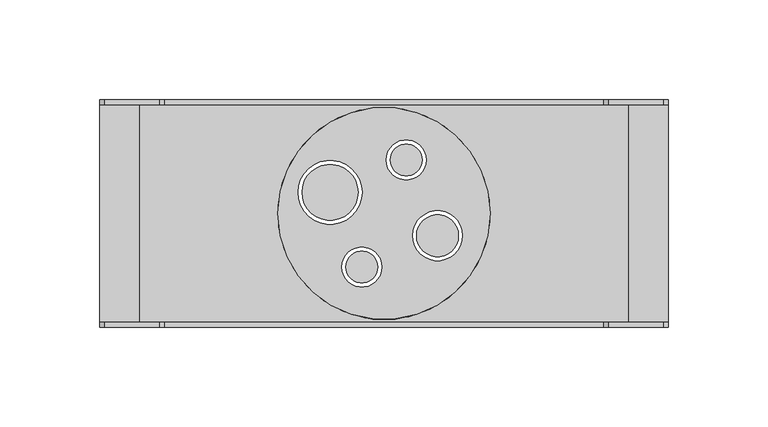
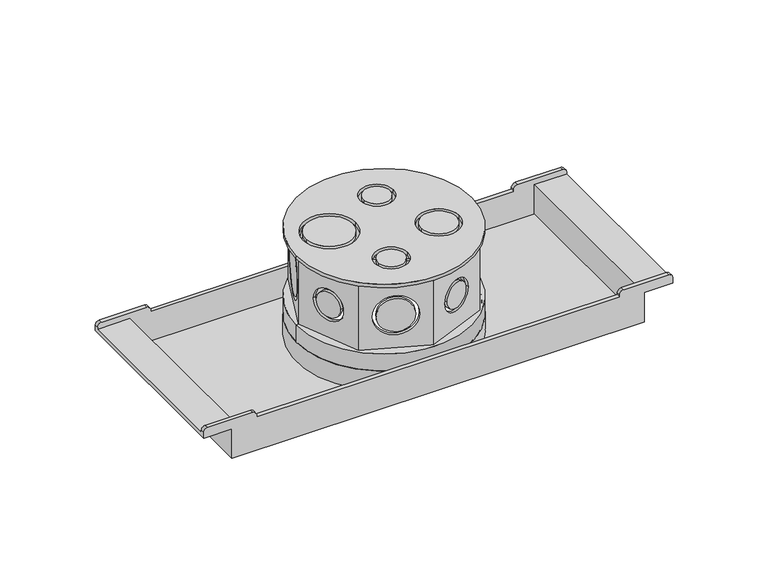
"""IFC4 building model written with IfcOpenShell, lengths in millimetres: pipe fitting geometry, AmancoWavin_ConexõesdoConduite_LinhaEletricaCorrugadoCaixaOctogonalcomSuporte4x4 : Reforçada 250mm."""

from ifc_helpers import new_model, si_unit, point, frame, frame_2d, origin, origin_2d, place, context, project, spatial, polyline, circle_curve, trimmed, segment, composite_curve, outline, extrude, source, transform, mapped, element, save
from ifc_brep_helpers import plane_surface, cylinder_surface, revolved_surface, advanced_brep


def pipe_fitting_fdc74c3c(model_context):
    return source(origin(), model_context, "Body", "SolidModel", [
        advanced_brep(
        [(-125.0, 56.85, 19.0), (-142.2, 56.85, 19.0), (-142.2, 56.85, 22.5), (-139.7, 56.85, 25.0), (-112.5, 56.85, 25.0), (-110.0, 56.85, 22.5), (-110.0, 56.85, 21.4), (110.0, 56.85, 21.4), (110.0, 56.85, 22.5), (112.5, 56.85, 25.0), (139.7, 56.85, 25.0), (142.2, 56.85, 22.5), (142.2, 56.85, 19.0), (125.0, 56.85, 19.0), (125.0, 56.85, 0.0), (-125.0, 56.85, 0.0), (-125.0, -56.85, 19.0), (-125.0, -56.85, 0.0), (125.0, -56.85, 0.0), (125.0, -56.85, 19.0), (142.2, -56.85, 19.0), (142.2, -56.85, 22.5), (139.7, -56.85, 25.0), (112.5, -56.85, 25.0), (110.0, -56.85, 22.5), (110.0, -56.85, 21.4), (-110.0, -56.85, 21.4), (-110.0, -56.85, 22.5), (-112.5, -56.85, 25.0), (-139.7, -56.85, 25.0), (-142.2, -56.85, 22.5), (-142.2, -56.85, 19.0), (-125.0, 54.45, 19.0), (-125.0, -54.45, 19.0), (-142.2, 54.45, 22.5), (-142.2, -54.45, 22.5), (-142.2, -54.45, 21.4), (-142.2, 54.45, 21.4), (-122.6, 54.45, 21.4), (-122.6, -54.45, 21.4), (-122.6, 54.45, 2.4), (-122.6, -54.45, 2.4), (122.6, 54.45, 2.4), (122.6, -54.45, 2.4), (-20.3013561, -49.0118092, 2.4), (20.3013561, 49.0118092, 2.4), (122.6, 54.45, 21.4), (122.6, -54.45, 21.4), (142.2, 54.45, 21.4), (142.2, -54.45, 21.4), (142.2, 54.45, 22.5), (142.2, -54.45, 22.5), (125.0, -54.45, 19.0), (125.0, 54.45, 19.0), (125.0, -54.45, 0.0), (125.0, 54.45, 0.0), (-125.0, -54.45, 0.0), (-125.0, 54.45, 0.0), (19.0767691, 46.0553947, 0.0), (-19.0767691, -46.0553947, 0.0), (-110.0, 54.45, 21.4), (-110.0, 54.45, 22.5), (-112.5, 54.45, 25.0), (-139.7, 54.45, 25.0), (139.7, 54.45, 25.0), (112.5, 54.45, 25.0), (110.0, 54.45, 22.5), (110.0, 54.45, 21.4), (-110.0, -54.45, 21.4), (110.0, -54.45, 21.4), (110.0, -54.45, 22.5), (112.5, -54.45, 25.0), (139.7, -54.45, 25.0), (-139.7, -54.45, 25.0), (-112.5, -54.45, 25.0), (-110.0, -54.45, 22.5), (-19.0767691, -46.0553947, 2.4), (19.0767691, 46.0553947, 2.4), (20.3013561, 49.0118092, 14.8), (-20.3013561, -49.0118092, 14.8), (19.0767691, 46.0553947, 14.8), (-19.0767691, -46.0553947, 14.8)],
        [
            (0, 1),
            (1, 2),
            (2, 3, circle_curve(frame((-139.7, 56.85, 22.5), z_axis=(0.0, 1.0, 0.0), x_axis=(-1.0, 0.0, 0.0)), 2.5)),
            (3, 4),
            (4, 5, circle_curve(frame((-112.5, 56.85, 22.5), z_axis=(0.0, 1.0, 0.0), x_axis=(-1.0, 0.0, 0.0)), 2.5)),
            (5, 6),
            (6, 7),
            (7, 8),
            (8, 9, circle_curve(frame((112.5, 56.85, 22.5), z_axis=(0.0, 1.0, 0.0), x_axis=(-1.0, 0.0, 0.0)), 2.5)),
            (9, 10),
            (10, 11, circle_curve(frame((139.7, 56.85, 22.5), z_axis=(0.0, 1.0, 0.0), x_axis=(-1.0, 0.0, 0.0)), 2.5)),
            (11, 12),
            (12, 13),
            (13, 14),
            (14, 15),
            (15, 0),
            (16, 17),
            (17, 18),
            (18, 19),
            (19, 20),
            (20, 21),
            (21, 22, circle_curve(frame((139.7, -56.85, 22.5), z_axis=(0.0, -1.0, 0.0), x_axis=(-1.0, 0.0, 0.0)), 2.5)),
            (22, 23),
            (23, 24, circle_curve(frame((112.5, -56.85, 22.5), z_axis=(0.0, -1.0, 0.0), x_axis=(-1.0, 0.0, 0.0)), 2.5)),
            (24, 25),
            (25, 26),
            (26, 27),
            (27, 28, circle_curve(frame((-112.5, -56.85, 22.5), z_axis=(0.0, -1.0, 0.0), x_axis=(-1.0, 0.0, 0.0)), 2.5)),
            (28, 29),
            (29, 30, circle_curve(frame((-139.7, -56.85, 22.5), z_axis=(0.0, -1.0, 0.0), x_axis=(-1.0, 0.0, 0.0)), 2.5)),
            (30, 31),
            (31, 16),
            (0, 32),
            (32, 33),
            (33, 16),
            (31, 1),
            (34, 2),
            (30, 35),
            (35, 36),
            (36, 37),
            (37, 34),
            (38, 37),
            (36, 39),
            (39, 38),
            (40, 38),
            (39, 41),
            (41, 40),
            (42, 40),
            (41, 43),
            (43, 42),
            (44, 45, circle_curve(frame((0.0, 0.0, 2.4), z_axis=(0.0, 0.0, -1.0), x_axis=(-0.3826834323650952, -0.9238795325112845, 0.0)), 53.05)),
            (45, 44, circle_curve(frame((0.0, 0.0, 2.4), z_axis=(0.0, 0.0, -1.0), x_axis=(-0.3826834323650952, -0.9238795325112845, 0.0)), 53.05)),
            (46, 42),
            (43, 47),
            (47, 46),
            (48, 46),
            (47, 49),
            (49, 48),
            (11, 50),
            (50, 48),
            (49, 51),
            (51, 21),
            (20, 12),
            (19, 52),
            (52, 53),
            (53, 13),
            (18, 54),
            (54, 55),
            (55, 14),
            (17, 56),
            (56, 57),
            (57, 15),
            (58, 59, circle_curve(frame((0.0, 0.0, 0.0), z_axis=(0.0, 0.0, 1.0), x_axis=(-0.3826834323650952, -0.9238795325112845, 0.0)), 49.85)),
            (59, 58, circle_curve(frame((0.0, 0.0, 0.0), z_axis=(0.0, 0.0, 1.0), x_axis=(-0.3826834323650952, -0.9238795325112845, 0.0)), 49.85)),
            (60, 61),
            (61, 62, circle_curve(frame((-112.5, 54.45, 22.5), z_axis=(0.0, -1.0, 0.0), x_axis=(-1.0, 0.0, 0.0)), 2.5)),
            (62, 63),
            (63, 34, circle_curve(frame((-139.7, 54.45, 22.5), z_axis=(0.0, -1.0, 0.0), x_axis=(-1.0, 0.0, 0.0)), 2.5)),
            (50, 64, circle_curve(frame((139.7, 54.45, 22.5), z_axis=(0.0, -1.0, 0.0), x_axis=(-1.0, 0.0, 0.0)), 2.5)),
            (64, 65),
            (65, 66, circle_curve(frame((112.5, 54.45, 22.5), z_axis=(0.0, -1.0, 0.0), x_axis=(-1.0, 0.0, 0.0)), 2.5)),
            (66, 67),
            (67, 60),
            (6, 60),
            (67, 7),
            (66, 8),
            (9, 65),
            (64, 10),
            (3, 63),
            (62, 4),
            (5, 61),
            (68, 69),
            (69, 70),
            (70, 71, circle_curve(frame((112.5, -54.45, 22.5), z_axis=(0.0, 1.0, 0.0), x_axis=(-1.0, 0.0, 0.0)), 2.5)),
            (71, 72),
            (72, 51, circle_curve(frame((139.7, -54.45, 22.5), z_axis=(0.0, 1.0, 0.0), x_axis=(-1.0, 0.0, 0.0)), 2.5)),
            (35, 73, circle_curve(frame((-139.7, -54.45, 22.5), z_axis=(0.0, 1.0, 0.0), x_axis=(-1.0, 0.0, 0.0)), 2.5)),
            (73, 74),
            (74, 75, circle_curve(frame((-112.5, -54.45, 22.5), z_axis=(0.0, 1.0, 0.0), x_axis=(-1.0, 0.0, 0.0)), 2.5)),
            (75, 68),
            (68, 26),
            (25, 69),
            (24, 70),
            (71, 23),
            (22, 72),
            (73, 29),
            (28, 74),
            (75, 27),
            (76, 59),
            (58, 77),
            (77, 76, circle_curve(frame((0.0, 0.0, 2.4), z_axis=(0.0, 0.0, 1.0), x_axis=(-0.3826834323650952, -0.9238795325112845, 0.0)), 49.85)),
            (76, 77, circle_curve(frame((0.0, 0.0, 2.4), z_axis=(0.0, 0.0, 1.0), x_axis=(-0.3826834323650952, -0.9238795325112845, 0.0)), 49.85)),
            (78, 79, circle_curve(frame((0.0, 0.0, 14.8), z_axis=(0.0, 0.0, 1.0), x_axis=(-0.3826834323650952, -0.9238795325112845, 0.0)), 53.05)),
            (79, 78, circle_curve(frame((0.0, 0.0, 14.8), z_axis=(0.0, 0.0, 1.0), x_axis=(-0.3826834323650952, -0.9238795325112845, 0.0)), 53.05)),
            (80, 81, circle_curve(frame((0.0, 0.0, 14.8), z_axis=(0.0, 0.0, -1.0), x_axis=(-0.3826834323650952, -0.9238795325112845, 0.0)), 49.85)),
            (81, 80, circle_curve(frame((0.0, 0.0, 14.8), z_axis=(0.0, 0.0, -1.0), x_axis=(-0.3826834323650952, -0.9238795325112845, 0.0)), 49.85)),
            (80, 77),
            (76, 81),
            (78, 45),
            (44, 79),
        ],
        [
            plane_surface(frame((-143.0458904, 56.85, 19.0), z_axis=(0.0, 1.0, 0.0), x_axis=(-1.0, 0.0, 0.0))),
            plane_surface(frame((-143.0458904, -56.85, 19.0), z_axis=(0.0, -1.0, 0.0), x_axis=(1.0, 0.0, 0.0))),
            plane_surface(frame((-125.0, 56.85, 19.0), z_axis=(0.0, 0.0, -1.0), x_axis=(0.0, -1.0, 0.0))),
            plane_surface(frame((-142.2, 56.85, 19.0), z_axis=(-1.0, 0.0, 0.0), x_axis=(0.0, -1.0, 0.0))),
            plane_surface(frame((-142.2, 56.85, 21.4), z_axis=(0.0, 0.0, 1.0), x_axis=(0.0, -1.0, 0.0))),
            plane_surface(frame((-122.6, 56.85, 21.4), z_axis=(1.0, 0.0, 0.0), x_axis=(0.0, -1.0, 0.0))),
            plane_surface(frame((-122.6, 56.85, 2.4), z_axis=(0.0, 0.0, 1.0), x_axis=(0.0, -1.0, 0.0))),
            plane_surface(frame((122.6, 56.85, 2.4), z_axis=(-1.0, 0.0, 0.0), x_axis=(0.0, -1.0, 0.0))),
            plane_surface(frame((122.6, 56.85, 21.4), z_axis=(0.0, 0.0, 1.0), x_axis=(0.0, -1.0, 0.0))),
            plane_surface(frame((142.2, 56.85, 21.4), z_axis=(1.0, 0.0, -4.455547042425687e-12), x_axis=(0.0, -1.0, 0.0))),
            plane_surface(frame((142.2, 56.85, 19.0), z_axis=(0.0, 0.0, -1.0), x_axis=(0.0, -1.0, 0.0))),
            plane_surface(frame((125.0, 56.85, 19.0), z_axis=(1.0, 0.0, 0.0), x_axis=(0.0, -1.0, 0.0))),
            plane_surface(frame((125.0, 56.85, 0.0), z_axis=(0.0, 0.0, -1.0), x_axis=(0.0, -1.0, 0.0))),
            plane_surface(frame((-125.0, 56.85, 0.0), z_axis=(-1.0, 0.0, 0.0), x_axis=(0.0, -1.0, 0.0))),
            plane_surface(frame((110.0, 54.45, 21.4), z_axis=(0.0, -1.0, 0.0), x_axis=(-1.0, 0.0, 0.0))),
            plane_surface(frame((-110.0, 56.85, 21.4), z_axis=(0.0, 0.0, 1.0), x_axis=(0.0, -1.0, 0.0))),
            plane_surface(frame((110.0, 56.85, 21.4), z_axis=(-1.0, 0.0, 0.0), x_axis=(0.0, -1.0, 0.0))),
            plane_surface(frame((112.5, 56.85, 25.0), z_axis=(0.0, 0.0, 1.0), x_axis=(0.0, -1.0, 0.0))),
            plane_surface(frame((-139.7, 56.85, 25.0), z_axis=(0.0, 0.0, 1.0), x_axis=(0.0, -1.0, 0.0))),
            plane_surface(frame((-110.0, 56.85, 22.5), z_axis=(1.0, 0.0, 0.0), x_axis=(0.0, -1.0, 0.0))),
            plane_surface(frame((110.0, -54.45, 21.4), z_axis=(0.0, 1.0, 0.0), x_axis=(1.0, 0.0, 0.0))),
            plane_surface(frame((-110.0, -54.45, 21.4), z_axis=(0.0, 0.0, 1.0), x_axis=(0.0, -1.0, 0.0))),
            plane_surface(frame((110.0, -54.45, 21.4), z_axis=(-1.0, 0.0, 0.0), x_axis=(0.0, -1.0, 0.0))),
            plane_surface(frame((112.5, -54.45, 25.0), z_axis=(0.0, 0.0, 1.0), x_axis=(0.0, -1.0, 0.0))),
            plane_surface(frame((-139.7, -54.45, 25.0), z_axis=(0.0, 0.0, 1.0), x_axis=(0.0, -1.0, 0.0))),
            plane_surface(frame((-110.0, -54.45, 22.5), z_axis=(1.0, 0.0, 0.0), x_axis=(0.0, -1.0, 0.0))),
            cylinder_surface(frame((112.5, -56.85, 22.5), z_axis=(0.0, 1.0, 0.0), x_axis=(-1.0, 0.0, 0.0)), 2.5),
            cylinder_surface(frame((139.7, -56.85, 22.5), z_axis=(0.0, 1.0, 0.0), x_axis=(-1.0, 0.0, 0.0)), 2.5),
            cylinder_surface(frame((-139.7, -56.85, 22.5), z_axis=(0.0, 1.0, 0.0), x_axis=(-1.0, 0.0, 0.0)), 2.5),
            cylinder_surface(frame((-112.5, -56.85, 22.5), z_axis=(0.0, 1.0, 0.0), x_axis=(-1.0, 0.0, 0.0)), 2.5),
            cylinder_surface(frame((112.5, 54.45, 22.5), z_axis=(0.0, 1.0, 0.0), x_axis=(-1.0, 0.0, 0.0)), 2.5),
            cylinder_surface(frame((139.7, 54.45, 22.5), z_axis=(0.0, 1.0, 0.0), x_axis=(-1.0, 0.0, 0.0)), 2.5),
            cylinder_surface(frame((-139.7, 54.45, 22.5), z_axis=(0.0, 1.0, 0.0), x_axis=(-1.0, 0.0, 0.0)), 2.5),
            cylinder_surface(frame((-112.5, 54.45, 22.5), z_axis=(0.0, 1.0, 0.0), x_axis=(-1.0, 0.0, 0.0)), 2.5),
            revolved_surface(polyline([(-19.076769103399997, -46.05539469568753, 2.4), (-19.076769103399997, -46.05539469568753, 0.0)]), (0.0, 0.0, 0.0), (0.0, 0.0, 1.0)),
            plane_surface(frame((-19.0767691, -46.0553947, 14.8), z_axis=(0.0, 0.0, 1.0), x_axis=(-0.9238795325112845, 0.3826834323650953, 0.0))),
            revolved_surface(polyline([(-19.076769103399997, -46.05539469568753, 2.4), (-19.076769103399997, -46.05539469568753, 14.8)]), (0.0, 0.0, 2.4), (0.0, 0.0, -1.0)),
            cylinder_surface(frame((0.0, 0.0, 47.0), z_axis=(0.0, 0.0, 1.0), x_axis=(-0.3826834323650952, -0.9238795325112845, 0.0)), 53.05),
        ],
        [
            (0, [[1, 2, 3, 4, 5, 6, 7, 8, 9, 10, 11, 12, 13, 14, 15, 16]]),
            (1, [[17, 18, 19, 20, 21, 22, 23, 24, 25, 26, 27, 28, 29, 30, 31, 32]]),
            (2, [[-1, 33, 34, 35, -32, 36]]),
            (3, [[37, -2, -36, -31, 38, 39, 40, 41]]),
            (4, [[42, -40, 43, 44]]),
            (5, [[45, -44, 46, 47]]),
            (6, [[48, -47, 49, 50], [51, 52]]),
            (7, [[53, -50, 54, 55]]),
            (8, [[56, -55, 57, 58]]),
            (9, [[59, 60, -58, 61, 62, -21, 63, -12]]),
            (10, [[-13, -63, -20, 64, 65, 66]]),
            (11, [[-14, -66, -65, -64, -19, 67, 68, 69]]),
            (12, [[-15, -69, -68, -67, -18, 70, 71, 72], [73, 74]]),
            (13, [[-16, -72, -71, -70, -17, -35, -34, -33]]),
            (14, [[75, 76, 77, 78, -41, -42, -45, -48, -53, -56, -60, 79, 80, 81, 82, 83]]),
            (15, [[-7, 84, -83, 85]]),
            (16, [[-8, -85, -82, 86]]),
            (17, [[-10, 87, -80, 88]]),
            (18, [[-4, 89, -77, 90]]),
            (19, [[-6, 91, -75, -84]]),
            (20, [[92, 93, 94, 95, 96, -61, -57, -54, -49, -46, -43, -39, 97, 98, 99, 100]]),
            (21, [[-92, 101, -26, 102]]),
            (22, [[-93, -102, -25, 103]]),
            (23, [[-95, 104, -23, 105]]),
            (24, [[-98, 106, -29, 107]]),
            (25, [[-100, 108, -27, -101]]),
            (26, [[-94, -103, -24, -104]]),
            (27, [[-96, -105, -22, -62]]),
            (28, [[-97, -38, -30, -106]]),
            (29, [[-99, -107, -28, -108]]),
            (30, [[-9, -86, -81, -87]]),
            (31, [[-11, -88, -79, -59]]),
            (32, [[-3, -37, -78, -89]]),
            (33, [[-5, -90, -76, -91]]),
            (34, [[109, -73, 110, 111]]),
            (34, [[-109, 112, -110, -74]]),
            (35, [[113, 114], [115, 116]]),
            (36, [[-115, 117, -112, 118]]),
            (36, [[-116, -118, -111, -117]]),
            (37, [[-113, 119, -51, 120]]),
            (37, [[-114, -120, -52, -119]]),
        ],
    ),
        advanced_brep(
        [(-53.1, 0.0, 25.9), (53.1, 0.0, 25.9), (50.0065197, 0.0, 25.9), (35.3599492, -35.3599492, 25.9), (0.0, -50.0065197, 25.9), (-35.3599492, -35.3599492, 25.9), (-50.0065197, 0.0, 25.9), (-35.3599492, 35.3599492, 25.9), (0.0, 50.0065197, 25.9), (35.3599492, 35.3599492, 25.9), (51.3, 0.0, 24.1), (-51.3, 0.0, 24.1), (-50.0065197, 0.0, 24.1), (-35.3599492, -35.3599492, 24.1), (0.0, -50.0065197, 24.1), (35.3599492, -35.3599492, 24.1), (50.0065197, 0.0, 24.1), (35.3599492, 35.3599492, 24.1), (0.0, 50.0065197, 24.1), (-35.3599492, 35.3599492, 24.1), (51.3, 0.0, 14.8), (-51.3, 0.0, 14.8), (53.1, 0.0, 14.8), (-53.1, 0.0, 14.8)],
        [
            (0, 1, circle_curve(frame((0.0, 0.0, 25.9), z_axis=(0.0, 0.0, 1.0), x_axis=(-1.0, 0.0, 0.0)), 53.1)),
            (1, 2),
            (2, 3),
            (3, 4),
            (4, 5),
            (5, 6),
            (6, 0),
            (1, 0, circle_curve(frame((0.0, 0.0, 25.9), z_axis=(0.0, 0.0, 1.0), x_axis=(-1.0, 0.0, 0.0)), 53.1)),
            (6, 7),
            (7, 8),
            (8, 9),
            (9, 2),
            (10, 11, circle_curve(frame((0.0, 0.0, 24.1), z_axis=(0.0, 0.0, -1.0), x_axis=(-1.0, 0.0, 0.0)), 51.3)),
            (11, 12),
            (12, 13),
            (13, 14),
            (14, 15),
            (15, 16),
            (16, 10),
            (11, 10, circle_curve(frame((0.0, 0.0, 24.1), z_axis=(0.0, 0.0, -1.0), x_axis=(-1.0, 0.0, 0.0)), 51.3)),
            (16, 17),
            (17, 18),
            (18, 19),
            (19, 12),
            (10, 20),
            (20, 21, circle_curve(frame((0.0, 0.0, 14.8), z_axis=(0.0, 0.0, -1.0), x_axis=(-1.0, 0.0, 0.0)), 51.3)),
            (21, 11),
            (21, 20, circle_curve(frame((0.0, 0.0, 14.8), z_axis=(0.0, 0.0, -1.0), x_axis=(-1.0, 0.0, 0.0)), 51.3)),
            (20, 22),
            (22, 23, circle_curve(frame((0.0, 0.0, 14.8), z_axis=(0.0, 0.0, -1.0), x_axis=(-1.0, 0.0, 0.0)), 53.1)),
            (23, 21),
            (23, 22, circle_curve(frame((0.0, 0.0, 14.8), z_axis=(0.0, 0.0, -1.0), x_axis=(-1.0, 0.0, 0.0)), 53.1)),
            (0, 23),
            (22, 1),
            (6, 12),
            (19, 7),
            (5, 13),
            (4, 14),
            (3, 15),
            (2, 16),
            (9, 17),
            (8, 18),
        ],
        [
            plane_surface(frame((0.0, 0.0, 25.9), z_axis=(0.0, 0.0, 1.0), x_axis=(-1.0, 0.0, 0.0))),
            plane_surface(frame((0.0, 0.0, 24.1), z_axis=(0.0, 0.0, -1.0), x_axis=(-1.0, 0.0, 0.0))),
            revolved_surface(polyline([(-51.3, 0.0, 24.09999999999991), (-51.3, 0.0, 14.800000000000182)]), (0.0, 0.0, -2207.2837531), (0.0, 0.0, 1.0)),
            plane_surface(frame((0.0, 0.0, 14.8), z_axis=(0.0, 0.0, -1.0), x_axis=(-1.0, 0.0, 0.0))),
            cylinder_surface(frame((0.0, 0.0, -2207.2837531), z_axis=(0.0, 0.0, 1.0), x_axis=(-1.0, 0.0, 0.0)), 53.1),
            plane_surface(frame((-35.3599492, 35.3599492, 68.4), z_axis=(0.9238795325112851, -0.38268343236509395, 0.0), x_axis=(0.0, 0.0, -1.0))),
            plane_surface(frame((-50.0065197, 0.0, 68.4), z_axis=(0.923879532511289, 0.38268343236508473, 0.0), x_axis=(0.0, 0.0, -1.0))),
            plane_surface(frame((-35.3599492, -35.3599492, 68.4), z_axis=(0.3826834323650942, 0.923879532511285, 0.0), x_axis=(0.0, 0.0, -1.0))),
            plane_surface(frame((0.0, -50.0065197, 68.4), z_axis=(-0.3826834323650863, 0.9238795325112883, 0.0), x_axis=(0.0, 0.0, -1.0))),
            plane_surface(frame((35.3599492, -35.3599492, 68.4), z_axis=(-0.923879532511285, 0.38268343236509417, 0.0), x_axis=(0.0, 0.0, -1.0))),
            plane_surface(frame((50.0065197, 0.0, 68.4), z_axis=(-0.9238795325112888, -0.3826834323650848, 0.0), x_axis=(0.0, 0.0, -1.0))),
            plane_surface(frame((35.3599492, 35.3599492, 68.4), z_axis=(-0.3826834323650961, -0.9238795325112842, 0.0), x_axis=(0.0, 0.0, -1.0))),
            plane_surface(frame((0.0, 50.0065197, 68.4), z_axis=(0.3826834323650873, -0.9238795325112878, 0.0), x_axis=(0.0, 0.0, -1.0))),
        ],
        [
            (0, [[1, 2, 3, 4, 5, 6, 7]]),
            (0, [[8, -7, 9, 10, 11, 12, -2]]),
            (1, [[13, 14, 15, 16, 17, 18, 19]]),
            (1, [[20, -19, 21, 22, 23, 24, -14]]),
            (2, [[-13, 25, 26, 27]]),
            (2, [[-20, -27, 28, -25]]),
            (3, [[-26, 29, 30, 31]]),
            (3, [[-28, -31, 32, -29]]),
            (4, [[-1, 33, -30, 34]]),
            (4, [[-8, -34, -32, -33]]),
            (5, [[35, -24, 36, -9]]),
            (6, [[-35, -6, 37, -15]]),
            (7, [[-37, -5, 38, -16]]),
            (8, [[-38, -4, 39, -17]]),
            (9, [[40, -18, -39, -3]]),
            (10, [[-40, -12, 41, -21]]),
            (11, [[-41, -11, 42, -22]]),
            (12, [[-36, -23, -42, -10]]),
        ],
    ),
        extrude(outline(composite_curve([segment(trimmed(circle_curve(origin_2d(), 53.1), [point((-53.1, 0.0))], [point((53.1, 0.0))], False, "CARTESIAN"), True, "CONTINUOUS"), segment(trimmed(circle_curve(origin_2d(), 53.1), [point((53.1, 0.0))], [point((-53.1, 0.0))], False, "CARTESIAN"), True, "CONTINUOUS")], self_intersect=False), holes=[composite_curve([segment(trimmed(circle_curve(frame_2d((11.0978211, 26.7925101)), 10.0), [point((1.0978211, 26.7925101))], [point((21.0978211, 26.7925101))], True, "CARTESIAN"), True, "CONTINUOUS"), segment(trimmed(circle_curve(frame_2d((11.0978211, 26.7925101)), 10.0), [point((21.0978211, 26.7925101))], [point((1.0978211, 26.7925101))], True, "CARTESIAN"), True, "CONTINUOUS")], self_intersect=False), composite_curve([segment(trimmed(circle_curve(frame_2d((-11.0978211, -26.7925101)), 10.0), [point((-21.0978211, -26.7925101))], [point((-1.0978211, -26.7925101))], True, "CARTESIAN"), True, "CONTINUOUS"), segment(trimmed(circle_curve(frame_2d((-11.0978211, -26.7925101)), 10.0), [point((-1.0978211, -26.7925101))], [point((-21.0978211, -26.7925101))], True, "CARTESIAN"), True, "CONTINUOUS")], self_intersect=False), composite_curve([segment(trimmed(circle_curve(frame_2d((-27.0031292, 10.5893313)), 16.0), [point((-43.0031292, 10.5893313))], [point((-11.0031292, 10.5893313))], True, "CARTESIAN"), True, "CONTINUOUS"), segment(trimmed(circle_curve(frame_2d((-27.0031292, 10.5893313)), 16.0), [point((-11.0031292, 10.5893313))], [point((-43.0031292, 10.5893313))], True, "CARTESIAN"), True, "CONTINUOUS")], self_intersect=False), composite_curve([segment(trimmed(circle_curve(frame_2d((26.7866956, -11.1118481)), 12.5), [point((14.2866956, -11.1118481))], [point((39.2866956, -11.1118481))], True, "CARTESIAN"), True, "CONTINUOUS"), segment(trimmed(circle_curve(frame_2d((26.7866956, -11.1118481)), 12.5), [point((39.2866956, -11.1118481))], [point((14.2866956, -11.1118481))], True, "CARTESIAN"), True, "CONTINUOUS")], self_intersect=False)]), frame((0.0, 0.0, 68.4), z_axis=(0.0, 0.0, 1.0), x_axis=(1.0, 0.0, 0.0)), (0.0, 0.0, 1.0), 2.1),
        extrude(outline(composite_curve([segment(trimmed(circle_curve(frame_2d((11.0978211, 26.7925101)), 8.0), [point((3.0978211, 26.7925101))], [point((19.0978211, 26.7925101))], False, "CARTESIAN"), True, "CONTINUOUS"), segment(trimmed(circle_curve(frame_2d((11.0978211, 26.7925101)), 8.0), [point((19.0978211, 26.7925101))], [point((3.0978211, 26.7925101))], False, "CARTESIAN"), True, "CONTINUOUS")], self_intersect=False)), frame((0.0, 0.0, 68.4), z_axis=(0.0, 0.0, 1.0), x_axis=(1.0, 0.0, 0.0)), (0.0, 0.0, 1.0), 2.1),
        extrude(outline(composite_curve([segment(trimmed(circle_curve(frame_2d((-11.0978211, -26.7925101)), 8.0), [point((-19.0978211, -26.7925101))], [point((-3.0978211, -26.7925101))], False, "CARTESIAN"), True, "CONTINUOUS"), segment(trimmed(circle_curve(frame_2d((-11.0978211, -26.7925101)), 8.0), [point((-3.0978211, -26.7925101))], [point((-19.0978211, -26.7925101))], False, "CARTESIAN"), True, "CONTINUOUS")], self_intersect=False)), frame((0.0, 0.0, 68.4), z_axis=(0.0, 0.0, 1.0), x_axis=(1.0, 0.0, 0.0)), (0.0, 0.0, 1.0), 2.1),
        extrude(outline(composite_curve([segment(trimmed(circle_curve(frame_2d((-27.0031292, 10.5893313)), 14.0), [point((-41.0031292, 10.5893313))], [point((-13.0031292, 10.5893313))], False, "CARTESIAN"), True, "CONTINUOUS"), segment(trimmed(circle_curve(frame_2d((-27.0031292, 10.5893313)), 14.0), [point((-13.0031292, 10.5893313))], [point((-41.0031292, 10.5893313))], False, "CARTESIAN"), True, "CONTINUOUS")], self_intersect=False)), frame((0.0, 0.0, 68.4), z_axis=(0.0, 0.0, 1.0), x_axis=(1.0, 0.0, 0.0)), (0.0, 0.0, 1.0), 2.1),
        extrude(outline(composite_curve([segment(trimmed(circle_curve(frame_2d((26.7866956, -11.1118481)), 10.5), [point((16.2866956, -11.1118481))], [point((37.2866956, -11.1118481))], False, "CARTESIAN"), True, "CONTINUOUS"), segment(trimmed(circle_curve(frame_2d((26.7866956, -11.1118481)), 10.5), [point((37.2866956, -11.1118481))], [point((16.2866956, -11.1118481))], False, "CARTESIAN"), True, "CONTINUOUS")], self_intersect=False)), frame((0.0, 0.0, 68.4), z_axis=(0.0, 0.0, 1.0), x_axis=(1.0, 0.0, 0.0)), (0.0, 0.0, 1.0), 2.1),
        advanced_brep(
        [(-35.3599492, 35.3599492, 25.9), (-35.3599492, 35.3599492, 68.4), (-50.0065197, 0.0, 68.4), (-50.0065197, 0.0, 25.9), (-36.5602995, 32.4620471, 47.0), (-48.8061693, 2.8979021, 47.0), (-35.3599492, -35.3599492, 68.4), (-35.3599492, -35.3599492, 25.9), (-46.5100687, -8.4411793, 47.0), (-38.8564001, -26.9187699, 47.0), (0.0, -50.0065197, 68.4), (0.0, -50.0065197, 25.9), (-29.2284687, -37.8996915, 47.0), (-6.1314804, -47.4667773, 47.0), (35.3599492, -35.3599492, 68.4), (35.3599492, -35.3599492, 25.9), (8.4411793, -46.5100687, 47.0), (26.9187699, -38.8564001, 47.0), (50.0065197, 0.0, 68.4), (50.0065197, 0.0, 25.9), (36.5602995, -32.4620471, 47.0), (48.8061693, -2.8979021, 47.0), (35.3599492, 35.3599492, 68.4), (35.3599492, 35.3599492, 25.9), (47.4667773, 6.1314804, 47.0), (37.8996915, 29.2284687, 47.0), (0.0, 50.0065197, 68.4), (0.0, 50.0065197, 25.9), (26.9187699, 38.8564001, 47.0), (8.4411793, 46.5100687, 47.0), (-6.1314804, 47.4667773, 47.0), (-29.2284687, 37.8996915, 47.0), (-36.7376095, 36.7376095, 68.4), (-51.9548256, 0.0, 68.4), (-36.7376095, -36.7376095, 68.4), (0.0, -51.9548256, 68.4), (36.7376095, -36.7376095, 68.4), (51.9548256, 0.0, 68.4), (36.7376095, 36.7376095, 68.4), (0.0, 51.9548256, 68.4), (-36.7376095, 36.7376095, 25.9), (0.0, 51.9548256, 25.9), (36.7376095, 36.7376095, 25.9), (51.9548256, 0.0, 25.9), (36.7376095, -36.7376095, 25.9), (0.0, -51.9548256, 25.9), (-36.7376095, -36.7376095, 25.9), (-51.9548256, 0.0, 25.9), (-50.4691525, 3.5867322, 47.0), (-38.2232826, 33.1508773, 47.0), (-40.5193832, -27.6076001, 47.0), (-48.1730519, -9.1300094, 47.0), (-6.8203106, -49.1297605, 47.0), (-29.9172989, -39.5626747, 47.0), (27.6076001, -40.5193832, 47.0), (9.1300094, -48.1730519, 47.0), (50.4691525, -3.5867322, 47.0), (38.2232826, -33.1508773, 47.0), (39.5626747, 29.9172989, 47.0), (49.1297605, 6.8203106, 47.0), (9.1300094, 48.1730519, 47.0), (27.6076001, 40.5193832, 47.0), (-29.9172989, 39.5626747, 47.0), (-6.8203106, 49.1297605, 47.0)],
        [
            (0, 1),
            (1, 2),
            (2, 3),
            (3, 0),
            (4, 5, circle_curve(frame((-42.6832344, 17.6799746, 47.0), z_axis=(-0.9238795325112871, 0.38268343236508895, 0.0), x_axis=(-0.38268343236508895, -0.9238795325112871, 0.0)), 16.0)),
            (5, 4, circle_curve(frame((-42.6832344, 17.6799746, 47.0), z_axis=(-0.9238795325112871, 0.38268343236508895, 0.0), x_axis=(-0.38268343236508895, -0.9238795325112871, 0.0)), 16.0)),
            (2, 6),
            (6, 7),
            (7, 3),
            (8, 9, circle_curve(frame((-42.6832344, -17.6799746, 47.0), z_axis=(-0.9238795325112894, -0.38268343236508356, 0.0), x_axis=(0.38268343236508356, -0.9238795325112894, 0.0)), 10.0)),
            (9, 8, circle_curve(frame((-42.6832344, -17.6799746, 47.0), z_axis=(-0.9238795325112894, -0.38268343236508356, 0.0), x_axis=(0.38268343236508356, -0.9238795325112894, 0.0)), 10.0)),
            (6, 10),
            (10, 11),
            (11, 7),
            (12, 13, circle_curve(frame((-17.6799746, -42.6832344, 47.0), z_axis=(-0.38268343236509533, -0.9238795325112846, 0.0), x_axis=(-0.9238795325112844, 0.3826834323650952, 0.0)), 12.5)),
            (13, 12, circle_curve(frame((-17.6799746, -42.6832344, 47.0), z_axis=(-0.38268343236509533, -0.9238795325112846, 0.0), x_axis=(-0.9238795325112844, 0.3826834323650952, 0.0)), 12.5)),
            (10, 14),
            (14, 15),
            (15, 11),
            (16, 17, circle_curve(frame((17.6799746, -42.6832344, 47.0), z_axis=(0.38268343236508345, -0.9238795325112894, 0.0), x_axis=(0.9238795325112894, 0.38268343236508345, 0.0)), 10.0)),
            (17, 16, circle_curve(frame((17.6799746, -42.6832344, 47.0), z_axis=(0.38268343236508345, -0.9238795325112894, 0.0), x_axis=(0.9238795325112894, 0.38268343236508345, 0.0)), 10.0)),
            (14, 18),
            (18, 19),
            (19, 15),
            (20, 21, circle_curve(frame((42.6832344, -17.6799746, 47.0), z_axis=(0.9238795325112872, -0.38268343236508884, 0.0), x_axis=(-0.38268343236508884, -0.9238795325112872, 0.0)), 16.0)),
            (21, 20, circle_curve(frame((42.6832344, -17.6799746, 47.0), z_axis=(0.9238795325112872, -0.38268343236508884, 0.0), x_axis=(-0.38268343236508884, -0.9238795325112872, 0.0)), 16.0)),
            (18, 22),
            (22, 23),
            (23, 19),
            (24, 25, circle_curve(frame((42.6832344, 17.6799746, 47.0), z_axis=(0.9238795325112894, 0.38268343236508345, 0.0), x_axis=(0.38268343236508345, -0.9238795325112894, 0.0)), 12.5)),
            (25, 24, circle_curve(frame((42.6832344, 17.6799746, 47.0), z_axis=(0.9238795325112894, 0.38268343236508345, 0.0), x_axis=(0.38268343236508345, -0.9238795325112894, 0.0)), 12.5)),
            (22, 26),
            (26, 27),
            (27, 23),
            (28, 29, circle_curve(frame((17.6799746, 42.6832344, 47.0), z_axis=(0.3826834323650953, 0.9238795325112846, 0.0), x_axis=(0.9238795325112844, -0.38268343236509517, 0.0)), 10.0)),
            (29, 28, circle_curve(frame((17.6799746, 42.6832344, 47.0), z_axis=(0.3826834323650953, 0.9238795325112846, 0.0), x_axis=(0.9238795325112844, -0.38268343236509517, 0.0)), 10.0)),
            (0, 27),
            (26, 1),
            (30, 31, circle_curve(frame((-17.6799746, 42.6832344, 47.0), z_axis=(-0.3826834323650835, 0.9238795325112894, 0.0), x_axis=(-0.9238795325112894, -0.3826834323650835, 0.0)), 12.5)),
            (31, 30, circle_curve(frame((-17.6799746, 42.6832344, 47.0), z_axis=(-0.3826834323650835, 0.9238795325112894, 0.0), x_axis=(-0.9238795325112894, -0.3826834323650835, 0.0)), 12.5)),
            (32, 33),
            (33, 34),
            (34, 35),
            (35, 36),
            (36, 37),
            (37, 38),
            (38, 39),
            (39, 32),
            (40, 41),
            (41, 42),
            (42, 43),
            (43, 44),
            (44, 45),
            (45, 46),
            (46, 47),
            (47, 40),
            (32, 40),
            (47, 33),
            (48, 49, circle_curve(frame((-44.3462176, 18.3688048, 47.0), z_axis=(0.9238795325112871, -0.38268343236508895, 0.0), x_axis=(-0.38268343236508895, -0.9238795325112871, 0.0)), 16.0)),
            (49, 48, circle_curve(frame((-44.3462176, 18.3688048, 47.0), z_axis=(0.9238795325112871, -0.38268343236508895, 0.0), x_axis=(-0.38268343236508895, -0.9238795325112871, 0.0)), 16.0)),
            (46, 34),
            (50, 51, circle_curve(frame((-44.3462176, -18.3688048, 47.0), z_axis=(0.9238795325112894, 0.38268343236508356, 0.0), x_axis=(0.38268343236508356, -0.9238795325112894, 0.0)), 10.0)),
            (51, 50, circle_curve(frame((-44.3462176, -18.3688048, 47.0), z_axis=(0.9238795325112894, 0.38268343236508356, 0.0), x_axis=(0.38268343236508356, -0.9238795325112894, 0.0)), 10.0)),
            (45, 35),
            (52, 53, circle_curve(frame((-18.3688048, -44.3462176, 47.0), z_axis=(0.38268343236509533, 0.9238795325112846, 0.0), x_axis=(-0.9238795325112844, 0.3826834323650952, 0.0)), 12.5)),
            (53, 52, circle_curve(frame((-18.3688048, -44.3462176, 47.0), z_axis=(0.38268343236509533, 0.9238795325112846, 0.0), x_axis=(-0.9238795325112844, 0.3826834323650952, 0.0)), 12.5)),
            (44, 36),
            (54, 55, circle_curve(frame((18.3688048, -44.3462176, 47.0), z_axis=(-0.38268343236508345, 0.9238795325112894, 0.0), x_axis=(0.9238795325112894, 0.38268343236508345, 0.0)), 10.0)),
            (55, 54, circle_curve(frame((18.3688048, -44.3462176, 47.0), z_axis=(-0.38268343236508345, 0.9238795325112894, 0.0), x_axis=(0.9238795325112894, 0.38268343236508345, 0.0)), 10.0)),
            (43, 37),
            (56, 57, circle_curve(frame((44.3462176, -18.3688048, 47.0), z_axis=(-0.9238795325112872, 0.38268343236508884, 0.0), x_axis=(-0.38268343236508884, -0.9238795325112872, 0.0)), 16.0)),
            (57, 56, circle_curve(frame((44.3462176, -18.3688048, 47.0), z_axis=(-0.9238795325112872, 0.38268343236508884, 0.0), x_axis=(-0.38268343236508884, -0.9238795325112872, 0.0)), 16.0)),
            (42, 38),
            (58, 59, circle_curve(frame((44.3462176, 18.3688048, 47.0), z_axis=(-0.9238795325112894, -0.38268343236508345, 0.0), x_axis=(0.38268343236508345, -0.9238795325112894, 0.0)), 12.5)),
            (59, 58, circle_curve(frame((44.3462176, 18.3688048, 47.0), z_axis=(-0.9238795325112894, -0.38268343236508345, 0.0), x_axis=(0.38268343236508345, -0.9238795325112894, 0.0)), 12.5)),
            (41, 39),
            (60, 61, circle_curve(frame((18.3688048, 44.3462176, 47.0), z_axis=(-0.3826834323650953, -0.9238795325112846, 0.0), x_axis=(0.9238795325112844, -0.38268343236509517, 0.0)), 10.0)),
            (61, 60, circle_curve(frame((18.3688048, 44.3462176, 47.0), z_axis=(-0.3826834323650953, -0.9238795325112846, 0.0), x_axis=(0.9238795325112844, -0.38268343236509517, 0.0)), 10.0)),
            (62, 63, circle_curve(frame((-18.3688048, 44.3462176, 47.0), z_axis=(0.3826834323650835, -0.9238795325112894, 0.0), x_axis=(-0.9238795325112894, -0.3826834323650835, 0.0)), 12.5)),
            (63, 62, circle_curve(frame((-18.3688048, 44.3462176, 47.0), z_axis=(0.3826834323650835, -0.9238795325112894, 0.0), x_axis=(-0.9238795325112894, -0.3826834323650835, 0.0)), 12.5)),
            (4, 49),
            (48, 5),
            (8, 51),
            (50, 9),
            (56, 21),
            (20, 57),
            (58, 25),
            (24, 59),
            (30, 63),
            (62, 31),
            (52, 13),
            (12, 53),
            (60, 29),
            (28, 61),
            (16, 55),
            (54, 17),
        ],
        [
            plane_surface(frame((-35.3599492, 35.3599492, 68.4), z_axis=(0.9238795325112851, -0.38268343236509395, 0.0), x_axis=(0.0, 0.0, -1.0))),
            plane_surface(frame((-50.0065197, 0.0, 68.4), z_axis=(0.923879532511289, 0.38268343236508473, 0.0), x_axis=(0.0, 0.0, -1.0))),
            plane_surface(frame((-35.3599492, -35.3599492, 68.4), z_axis=(0.3826834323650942, 0.923879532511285, 0.0), x_axis=(0.0, 0.0, -1.0))),
            plane_surface(frame((0.0, -50.0065197, 68.4), z_axis=(-0.3826834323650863, 0.9238795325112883, 0.0), x_axis=(0.0, 0.0, -1.0))),
            plane_surface(frame((35.3599492, -35.3599492, 68.4), z_axis=(-0.923879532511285, 0.38268343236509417, 0.0), x_axis=(0.0, 0.0, -1.0))),
            plane_surface(frame((50.0065197, 0.0, 68.4), z_axis=(-0.9238795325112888, -0.3826834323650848, 0.0), x_axis=(0.0, 0.0, -1.0))),
            plane_surface(frame((35.3599492, 35.3599492, 68.4), z_axis=(-0.3826834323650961, -0.9238795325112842, 0.0), x_axis=(0.0, 0.0, -1.0))),
            plane_surface(frame((0.0, 50.0065197, 68.4), z_axis=(0.3826834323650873, -0.9238795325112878, 0.0), x_axis=(0.0, 0.0, -1.0))),
            plane_surface(frame((-36.7376095, 36.7376095, 68.4), z_axis=(0.0, 0.0, 1.0000000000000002), x_axis=(-0.3826834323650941, -0.9238795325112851, 0.0))),
            plane_surface(frame((-36.7376095, 36.7376095, 25.9), z_axis=(0.0, 0.0, -1.0000000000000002), x_axis=(0.3826834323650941, 0.9238795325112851, 0.0))),
            plane_surface(frame((-36.7376095, 36.7376095, 68.4), z_axis=(-0.9238795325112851, 0.3826834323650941, 0.0), x_axis=(0.0, 0.0, -1.0))),
            plane_surface(frame((-51.9548256, 0.0, 68.4), z_axis=(-0.9238795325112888, -0.38268343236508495, 0.0), x_axis=(0.0, 0.0, -1.0))),
            plane_surface(frame((-36.7376095, -36.7376095, 68.4), z_axis=(-0.38268343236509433, -0.9238795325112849, 0.0), x_axis=(0.0, 0.0, -1.0))),
            plane_surface(frame((0.0, -51.9548256, 68.4), z_axis=(0.3826834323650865, -0.9238795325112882, 0.0), x_axis=(0.0, 0.0, -1.0))),
            plane_surface(frame((36.7376095, -36.7376095, 68.4), z_axis=(0.9238795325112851, -0.38268343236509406, 0.0), x_axis=(0.0, 0.0, -1.0))),
            plane_surface(frame((51.9548256, 0.0, 68.4), z_axis=(0.9238795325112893, 0.3826834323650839, 0.0), x_axis=(0.0, 0.0, -1.0))),
            plane_surface(frame((36.7376095, 36.7376095, 68.4), z_axis=(0.3826834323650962, 0.9238795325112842, 0.0), x_axis=(0.0, 0.0, -1.0))),
            plane_surface(frame((0.0, 51.9548256, 68.4), z_axis=(-0.3826834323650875, 0.9238795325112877, 0.0), x_axis=(0.0, 0.0, -1.0))),
            revolved_surface(polyline([(-48.806169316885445, 2.8979020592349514, 47.0), (-50.46915252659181, 3.58673225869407, 47.0)]), (113.1333485, -46.8613673, 47.0), (0.9238795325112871, -0.38268343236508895, 0.0)),
            revolved_surface(polyline([(-38.856400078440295, -26.918769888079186, 47.0), (-40.5193832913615, -27.60760008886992, 47.0)]), (-88.9612962, -36.8489754, 47.0), (0.9238795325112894, 0.38268343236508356, 0.0)),
            revolved_surface(polyline([(38.22328269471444, -33.15087728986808, 47.0), (36.560299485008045, -32.46204709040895, 47.0)]), (113.1333485, -46.8613673, 47.0), (0.9238795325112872, -0.38268343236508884, 0.0)),
            revolved_surface(polyline([(49.12976051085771, 6.820310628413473, 47.0), (47.4667772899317, 6.131480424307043, 47.0)]), (-88.9612962, -36.8489754, 47.0), (0.9238795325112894, 0.38268343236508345, 0.0)),
            revolved_surface(polyline([(-29.22846871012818, 37.89969149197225, 47.0), (-29.91729891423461, 39.56267471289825, 47.0)]), (-28.4016141, 68.567562, 47.0), (0.3826834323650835, -0.9238795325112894, 0.0)),
            revolved_surface(polyline([(-29.9172989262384, -39.56267470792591, 47.0), (-29.228468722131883, -37.899691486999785, 47.0)]), (36.0484894, 87.028752, 47.0), (-0.3826834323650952, -0.9238795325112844, 0.0)),
            revolved_surface(polyline([(27.607600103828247, 40.51938328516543, 47.0), (26.918769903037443, 38.856400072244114, 47.0)]), (36.0484894, 87.028752, 47.0), (0.38268343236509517, 0.9238795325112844, 0.0)),
            revolved_surface(polyline([(26.91876991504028, -38.85640006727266, 47.0), (27.60760011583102, -40.519383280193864, 47.0)]), (-28.4016141, 68.567562, 47.0), (-0.38268343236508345, 0.9238795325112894, 0.0)),
        ],
        [
            (0, [[1, 2, 3, 4], [5, 6]]),
            (1, [[-3, 7, 8, 9], [10, 11]]),
            (2, [[-8, 12, 13, 14], [15, 16]]),
            (3, [[-13, 17, 18, 19], [20, 21]]),
            (4, [[-18, 22, 23, 24], [25, 26]]),
            (5, [[-23, 27, 28, 29], [30, 31]]),
            (6, [[-28, 32, 33, 34], [35, 36]]),
            (7, [[-1, 37, -33, 38], [39, 40]]),
            (8, [[41, 42, 43, 44, 45, 46, 47, 48], [-2, -38, -32, -27, -22, -17, -12, -7]]),
            (9, [[49, 50, 51, 52, 53, 54, 55, 56], [-4, -9, -14, -19, -24, -29, -34, -37]]),
            (10, [[-41, 57, -56, 58], [59, 60]]),
            (11, [[-42, -58, -55, 61], [62, 63]]),
            (12, [[-43, -61, -54, 64], [65, 66]]),
            (13, [[-44, -64, -53, 67], [68, 69]]),
            (14, [[-45, -67, -52, 70], [71, 72]]),
            (15, [[-46, -70, -51, 73], [74, 75]]),
            (16, [[-47, -73, -50, 76], [77, 78]]),
            (17, [[-48, -76, -49, -57], [79, 80]]),
            (18, [[81, -59, 82, -5]]),
            (18, [[-81, -6, -82, -60]]),
            (19, [[83, -62, 84, -10]]),
            (19, [[-83, -11, -84, -63]]),
            (20, [[85, -25, 86, -71]]),
            (20, [[-85, -72, -86, -26]]),
            (21, [[87, -30, 88, -74]]),
            (21, [[-87, -75, -88, -31]]),
            (22, [[89, -79, 90, -39]]),
            (22, [[-89, -40, -90, -80]]),
            (23, [[91, -15, 92, -65]]),
            (23, [[-91, -66, -92, -16]]),
            (24, [[93, -35, 94, -77]]),
            (24, [[-93, -78, -94, -36]]),
            (25, [[95, -68, 96, -20]]),
            (25, [[-95, -21, -96, -69]]),
        ],
    ),
        advanced_brep(
        [(-48.0408025, 4.7456611, 47.0), (-37.3256663, 30.614288, 47.0), (-38.9886495, 31.3031182, 47.0), (-49.7037856, 5.4344913, 47.0)],
        [
            (0, 1, circle_curve(frame((-42.6832344, 17.6799746, 47.0), z_axis=(0.9238795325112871, -0.38268343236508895, 0.0), x_axis=(-0.38268343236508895, -0.9238795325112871, 0.0)), 14.0)),
            (1, 0, circle_curve(frame((-42.6832344, 17.6799746, 47.0), z_axis=(0.9238795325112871, -0.38268343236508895, 0.0), x_axis=(-0.38268343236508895, -0.9238795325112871, 0.0)), 14.0)),
            (2, 3, circle_curve(frame((-44.3462176, 18.3688048, 47.0), z_axis=(-0.9238795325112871, 0.38268343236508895, 0.0), x_axis=(-0.38268343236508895, -0.9238795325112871, 0.0)), 14.0)),
            (3, 2, circle_curve(frame((-44.3462176, 18.3688048, 47.0), z_axis=(-0.9238795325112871, 0.38268343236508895, 0.0), x_axis=(-0.38268343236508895, -0.9238795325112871, 0.0)), 14.0)),
            (2, 1),
            (0, 3),
        ],
        [
            plane_surface(frame((-35.3599492, 35.3599492, 68.4), z_axis=(0.9238795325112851, -0.38268343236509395, 0.0), x_axis=(0.0, 0.0, -1.0))),
            plane_surface(frame((-36.7376095, 36.7376095, 68.4), z_axis=(-0.9238795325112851, 0.3826834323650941, 0.0), x_axis=(0.0, 0.0, -1.0))),
            cylinder_surface(frame((113.1333485, -46.8613673, 47.0), z_axis=(0.9238795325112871, -0.38268343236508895, 0.0), x_axis=(-0.38268343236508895, -0.9238795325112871, 0.0)), 14.0),
        ],
        [
            (0, [[1, 2]]),
            (1, [[3, 4]]),
            (2, [[5, -1, 6, -3]]),
            (2, [[-5, -4, -6, -2]]),
        ],
    ),
        advanced_brep(
        [(-39.6217669, -25.0710108, 47.0), (-45.7447019, -10.2889383, 47.0), (-47.407685, -10.9777685, 47.0), (-41.2847501, -25.759841, 47.0)],
        [
            (0, 1, circle_curve(frame((-42.6832344, -17.6799746, 47.0), z_axis=(0.9238795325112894, 0.38268343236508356, 0.0), x_axis=(0.38268343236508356, -0.9238795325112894, 0.0)), 8.0)),
            (1, 0, circle_curve(frame((-42.6832344, -17.6799746, 47.0), z_axis=(0.9238795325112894, 0.38268343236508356, 0.0), x_axis=(0.38268343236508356, -0.9238795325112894, 0.0)), 8.0)),
            (2, 3, circle_curve(frame((-44.3462176, -18.3688048, 47.0), z_axis=(-0.9238795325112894, -0.38268343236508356, 0.0), x_axis=(0.38268343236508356, -0.9238795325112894, 0.0)), 8.0)),
            (3, 2, circle_curve(frame((-44.3462176, -18.3688048, 47.0), z_axis=(-0.9238795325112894, -0.38268343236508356, 0.0), x_axis=(0.38268343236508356, -0.9238795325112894, 0.0)), 8.0)),
            (2, 1),
            (0, 3),
        ],
        [
            plane_surface(frame((-50.0065197, 0.0, 68.4), z_axis=(0.923879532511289, 0.38268343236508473, 0.0), x_axis=(0.0, 0.0, -1.0))),
            plane_surface(frame((-51.9548256, 0.0, 68.4), z_axis=(-0.9238795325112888, -0.38268343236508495, 0.0), x_axis=(0.0, 0.0, -1.0))),
            cylinder_surface(frame((-88.9612962, -36.8489754, 47.0), z_axis=(0.9238795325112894, 0.38268343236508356, 0.0), x_axis=(0.38268343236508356, -0.9238795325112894, 0.0)), 8.0),
        ],
        [
            (0, [[1, 2]]),
            (1, [[3, 4]]),
            (2, [[5, -1, 6, -3]]),
            (2, [[-5, -4, -6, -2]]),
        ],
    ),
        advanced_brep(
        [(-7.9792395, -46.7014104, 47.0), (-27.3807097, -38.6650584, 47.0), (-28.0695398, -40.3280415, 47.0), (-8.6680697, -48.3643936, 47.0)],
        [
            (0, 1, circle_curve(frame((-17.6799746, -42.6832344, 47.0), z_axis=(0.38268343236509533, 0.9238795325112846, 0.0), x_axis=(-0.9238795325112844, 0.3826834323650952, 0.0)), 10.5)),
            (1, 0, circle_curve(frame((-17.6799746, -42.6832344, 47.0), z_axis=(0.38268343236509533, 0.9238795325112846, 0.0), x_axis=(-0.9238795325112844, 0.3826834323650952, 0.0)), 10.5)),
            (2, 3, circle_curve(frame((-18.3688048, -44.3462176, 47.0), z_axis=(-0.38268343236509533, -0.9238795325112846, 0.0), x_axis=(-0.9238795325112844, 0.3826834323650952, 0.0)), 10.5)),
            (3, 2, circle_curve(frame((-18.3688048, -44.3462176, 47.0), z_axis=(-0.38268343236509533, -0.9238795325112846, 0.0), x_axis=(-0.9238795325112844, 0.3826834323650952, 0.0)), 10.5)),
            (0, 3),
            (2, 1),
        ],
        [
            plane_surface(frame((-35.3599492, -35.3599492, 68.4), z_axis=(0.3826834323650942, 0.923879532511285, 0.0), x_axis=(0.0, 0.0, -1.0))),
            plane_surface(frame((-36.7376095, -36.7376095, 68.4), z_axis=(-0.38268343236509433, -0.9238795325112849, 0.0), x_axis=(0.0, 0.0, -1.0))),
            cylinder_surface(frame((36.0484894, 87.028752, 47.0), z_axis=(-0.3826834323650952, -0.9238795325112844, 0.0), x_axis=(-0.9238795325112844, 0.3826834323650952, 0.0)), 10.5),
        ],
        [
            (0, [[1, 2]]),
            (1, [[3, 4]]),
            (2, [[5, -3, 6, -1]]),
            (2, [[-5, -2, -6, -4]]),
        ],
    ),
        advanced_brep(
        [(25.0710108, -39.6217669, 47.0), (10.2889383, -45.7447019, 47.0), (10.9777685, -47.407685, 47.0), (25.759841, -41.2847501, 47.0)],
        [
            (0, 1, circle_curve(frame((17.6799746, -42.6832344, 47.0), z_axis=(-0.38268343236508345, 0.9238795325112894, 0.0), x_axis=(0.9238795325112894, 0.38268343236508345, 0.0)), 8.0)),
            (1, 0, circle_curve(frame((17.6799746, -42.6832344, 47.0), z_axis=(-0.38268343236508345, 0.9238795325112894, 0.0), x_axis=(0.9238795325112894, 0.38268343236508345, 0.0)), 8.0)),
            (2, 3, circle_curve(frame((18.3688048, -44.3462176, 47.0), z_axis=(0.38268343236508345, -0.9238795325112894, 0.0), x_axis=(0.9238795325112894, 0.38268343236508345, 0.0)), 8.0)),
            (3, 2, circle_curve(frame((18.3688048, -44.3462176, 47.0), z_axis=(0.38268343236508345, -0.9238795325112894, 0.0), x_axis=(0.9238795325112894, 0.38268343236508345, 0.0)), 8.0)),
            (2, 1),
            (0, 3),
        ],
        [
            plane_surface(frame((0.0, -50.0065197, 68.4), z_axis=(-0.3826834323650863, 0.9238795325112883, 0.0), x_axis=(0.0, 0.0, -1.0))),
            plane_surface(frame((0.0, -51.9548256, 68.4), z_axis=(0.3826834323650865, -0.9238795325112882, 0.0), x_axis=(0.0, 0.0, -1.0))),
            cylinder_surface(frame((-28.4016141, 68.567562, 47.0), z_axis=(-0.38268343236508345, 0.9238795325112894, 0.0), x_axis=(0.9238795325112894, 0.38268343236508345, 0.0)), 8.0),
        ],
        [
            (0, [[1, 2]]),
            (1, [[3, 4]]),
            (2, [[5, -1, 6, -3]]),
            (2, [[-5, -4, -6, -2]]),
        ],
    ),
        advanced_brep(
        [(48.0408025, -4.7456611, 47.0), (37.3256663, -30.614288, 47.0), (38.9886495, -31.3031182, 47.0), (49.7037856, -5.4344913, 47.0)],
        [
            (0, 1, circle_curve(frame((42.6832344, -17.6799746, 47.0), z_axis=(-0.9238795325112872, 0.38268343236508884, 0.0), x_axis=(-0.38268343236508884, -0.9238795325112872, 0.0)), 14.0)),
            (1, 0, circle_curve(frame((42.6832344, -17.6799746, 47.0), z_axis=(-0.9238795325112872, 0.38268343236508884, 0.0), x_axis=(-0.38268343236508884, -0.9238795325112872, 0.0)), 14.0)),
            (2, 3, circle_curve(frame((44.3462176, -18.3688048, 47.0), z_axis=(0.9238795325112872, -0.38268343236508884, 0.0), x_axis=(-0.38268343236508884, -0.9238795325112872, 0.0)), 14.0)),
            (3, 2, circle_curve(frame((44.3462176, -18.3688048, 47.0), z_axis=(0.9238795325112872, -0.38268343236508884, 0.0), x_axis=(-0.38268343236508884, -0.9238795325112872, 0.0)), 14.0)),
            (0, 3),
            (2, 1),
        ],
        [
            plane_surface(frame((35.3599492, -35.3599492, 68.4), z_axis=(-0.923879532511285, 0.38268343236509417, 0.0), x_axis=(0.0, 0.0, -1.0))),
            plane_surface(frame((36.7376095, -36.7376095, 68.4), z_axis=(0.9238795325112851, -0.38268343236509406, 0.0), x_axis=(0.0, 0.0, -1.0))),
            cylinder_surface(frame((113.1333485, -46.8613673, 47.0), z_axis=(0.9238795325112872, -0.38268343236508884, 0.0), x_axis=(-0.38268343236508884, -0.9238795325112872, 0.0)), 14.0),
        ],
        [
            (0, [[1, 2]]),
            (1, [[3, 4]]),
            (2, [[5, -3, 6, -1]]),
            (2, [[-5, -2, -6, -4]]),
        ],
    ),
        advanced_brep(
        [(38.6650584, 27.3807097, 47.0), (46.7014104, 7.9792395, 47.0), (48.3643936, 8.6680697, 47.0), (40.3280415, 28.0695398, 47.0)],
        [
            (0, 1, circle_curve(frame((42.6832344, 17.6799746, 47.0), z_axis=(-0.9238795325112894, -0.38268343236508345, 0.0), x_axis=(0.38268343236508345, -0.9238795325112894, 0.0)), 10.5)),
            (1, 0, circle_curve(frame((42.6832344, 17.6799746, 47.0), z_axis=(-0.9238795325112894, -0.38268343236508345, 0.0), x_axis=(0.38268343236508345, -0.9238795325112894, 0.0)), 10.5)),
            (2, 3, circle_curve(frame((44.3462176, 18.3688048, 47.0), z_axis=(0.9238795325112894, 0.38268343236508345, 0.0), x_axis=(0.38268343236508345, -0.9238795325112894, 0.0)), 10.5)),
            (3, 2, circle_curve(frame((44.3462176, 18.3688048, 47.0), z_axis=(0.9238795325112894, 0.38268343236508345, 0.0), x_axis=(0.38268343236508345, -0.9238795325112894, 0.0)), 10.5)),
            (0, 3),
            (2, 1),
        ],
        [
            plane_surface(frame((50.0065197, 0.0, 68.4), z_axis=(-0.9238795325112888, -0.3826834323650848, 0.0), x_axis=(0.0, 0.0, -1.0))),
            plane_surface(frame((51.9548256, 0.0, 68.4), z_axis=(0.9238795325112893, 0.3826834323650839, 0.0), x_axis=(0.0, 0.0, -1.0))),
            cylinder_surface(frame((-88.9612962, -36.8489754, 47.0), z_axis=(0.9238795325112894, 0.38268343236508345, 0.0), x_axis=(0.38268343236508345, -0.9238795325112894, 0.0)), 10.5),
        ],
        [
            (0, [[1, 2]]),
            (1, [[3, 4]]),
            (2, [[5, -3, 6, -1]]),
            (2, [[-5, -2, -6, -4]]),
        ],
    ),
        advanced_brep(
        [(10.2889383, 45.7447019, 47.0), (25.0710108, 39.6217669, 47.0), (25.759841, 41.2847501, 47.0), (10.9777685, 47.407685, 47.0)],
        [
            (0, 1, circle_curve(frame((17.6799746, 42.6832344, 47.0), z_axis=(-0.3826834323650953, -0.9238795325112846, 0.0), x_axis=(0.9238795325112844, -0.38268343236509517, 0.0)), 8.0)),
            (1, 0, circle_curve(frame((17.6799746, 42.6832344, 47.0), z_axis=(-0.3826834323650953, -0.9238795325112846, 0.0), x_axis=(0.9238795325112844, -0.38268343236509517, 0.0)), 8.0)),
            (2, 3, circle_curve(frame((18.3688048, 44.3462176, 47.0), z_axis=(0.3826834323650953, 0.9238795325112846, 0.0), x_axis=(0.9238795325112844, -0.38268343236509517, 0.0)), 8.0)),
            (3, 2, circle_curve(frame((18.3688048, 44.3462176, 47.0), z_axis=(0.3826834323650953, 0.9238795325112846, 0.0), x_axis=(0.9238795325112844, -0.38268343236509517, 0.0)), 8.0)),
            (0, 3),
            (2, 1),
        ],
        [
            plane_surface(frame((35.3599492, 35.3599492, 68.4), z_axis=(-0.3826834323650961, -0.9238795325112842, 0.0), x_axis=(0.0, 0.0, -1.0))),
            plane_surface(frame((36.7376095, 36.7376095, 68.4), z_axis=(0.3826834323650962, 0.9238795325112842, 0.0), x_axis=(0.0, 0.0, -1.0))),
            cylinder_surface(frame((36.0484894, 87.028752, 47.0), z_axis=(0.38268343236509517, 0.9238795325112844, 0.0), x_axis=(0.9238795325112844, -0.38268343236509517, 0.0)), 8.0),
        ],
        [
            (0, [[1, 2]]),
            (1, [[3, 4]]),
            (2, [[5, -3, 6, -1]]),
            (2, [[-5, -2, -6, -4]]),
        ],
    ),
        advanced_brep(
        [(-27.3807097, 38.6650584, 47.0), (-7.9792395, 46.7014104, 47.0), (-8.6680697, 48.3643936, 47.0), (-28.0695398, 40.3280415, 47.0)],
        [
            (0, 1, circle_curve(frame((-17.6799746, 42.6832344, 47.0), z_axis=(0.3826834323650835, -0.9238795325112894, 0.0), x_axis=(-0.9238795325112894, -0.3826834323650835, 0.0)), 10.5)),
            (1, 0, circle_curve(frame((-17.6799746, 42.6832344, 47.0), z_axis=(0.3826834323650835, -0.9238795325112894, 0.0), x_axis=(-0.9238795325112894, -0.3826834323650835, 0.0)), 10.5)),
            (2, 3, circle_curve(frame((-18.3688048, 44.3462176, 47.0), z_axis=(-0.3826834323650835, 0.9238795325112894, 0.0), x_axis=(-0.9238795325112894, -0.3826834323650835, 0.0)), 10.5)),
            (3, 2, circle_curve(frame((-18.3688048, 44.3462176, 47.0), z_axis=(-0.3826834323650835, 0.9238795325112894, 0.0), x_axis=(-0.9238795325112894, -0.3826834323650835, 0.0)), 10.5)),
            (2, 1),
            (0, 3),
        ],
        [
            plane_surface(frame((0.0, 50.0065197, 68.4), z_axis=(0.3826834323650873, -0.9238795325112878, 0.0), x_axis=(0.0, 0.0, -1.0))),
            plane_surface(frame((0.0, 51.9548256, 68.4), z_axis=(-0.3826834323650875, 0.9238795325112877, 0.0), x_axis=(0.0, 0.0, -1.0))),
            cylinder_surface(frame((-28.4016141, 68.567562, 47.0), z_axis=(0.3826834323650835, -0.9238795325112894, 0.0), x_axis=(-0.9238795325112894, -0.3826834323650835, 0.0)), 10.5),
        ],
        [
            (0, [[1, 2]]),
            (1, [[3, 4]]),
            (2, [[5, -1, 6, -3]]),
            (2, [[-5, -4, -6, -2]]),
        ],
    ),
    ])


if __name__ == "__main__":
    model = new_model("IFC4")
    model_context = context("Model", 3, world=origin())
    ifc_project = project(units=[si_unit("LENGTHUNIT", "METRE", prefix="MILLI")], contexts=[model_context])
    site = spatial("IfcSite", under=ifc_project)
    building = spatial("IfcBuilding", under=site)
    placement = place(None, origin())
    pipe_fitting_shape = pipe_fitting_fdc74c3c(model_context)
    element("IfcPipeFitting", 1, ObjectType="AmancoWavin_ConexõesdoConduite_LinhaEletricaCorrugadoCaixaOctogonalcomSuporte4x4 : Reforçada 250mm", at=placement, inside=building, context=model_context, shape_type="MappedRepresentation", body=[
        mapped(pipe_fitting_shape, transform((0.0, 0.0, 0.0), x_axis=(1.0, 0.0, 0.0), y_axis=(0.0, 1.0, 0.0), z_axis=(0.0, 0.0, 1.0))),
    ])
    save(model, "model.ifc")
